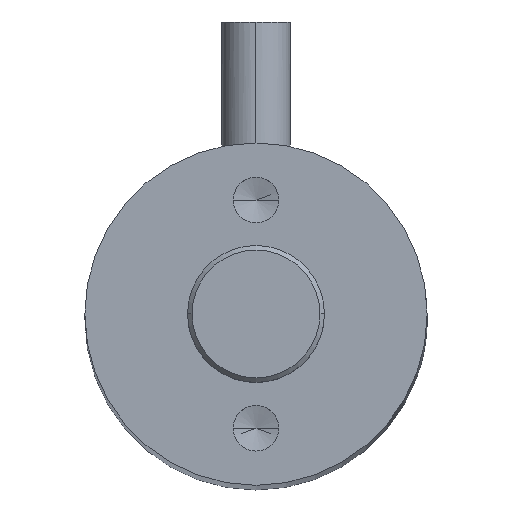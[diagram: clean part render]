
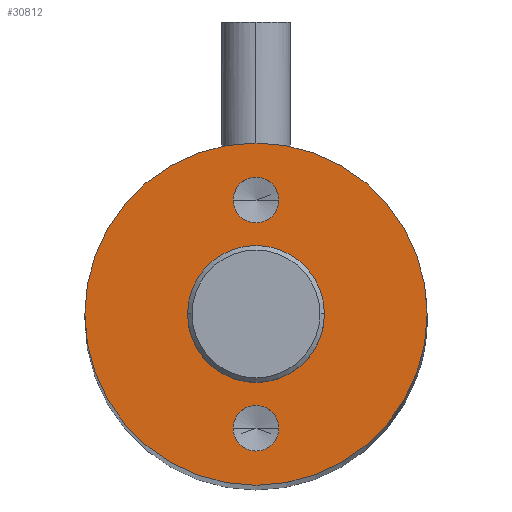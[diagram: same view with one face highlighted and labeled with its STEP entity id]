
A CAD part, top view. The second image highlights one B-rep face of the part: STEP entity #30812.
In plain terms, the highlighted planar face has unit normal (0, 0, 1).
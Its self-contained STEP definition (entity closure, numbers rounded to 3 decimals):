
#53 = FACE_BOUND ( 'NONE', #38670, .T. ) ;
#170 = EDGE_CURVE ( 'NONE', #35026, #16088, #1766, .T. ) ;
#465 = EDGE_CURVE ( 'NONE', #12319, #28837, #17009, .T. ) ;
#469 = ORIENTED_EDGE ( 'NONE', *, *, #14877, .F. ) ;
#974 = AXIS2_PLACEMENT_3D ( 'NONE', #29492, #14544, #26144 ) ;
#1462 = CARTESIAN_POINT ( 'NONE',  ( 1., -5., 118.6 ) ) ;
#1564 = CARTESIAN_POINT ( 'NONE',  ( 0., 0., 118.6 ) ) ;
#1766 = CIRCLE ( 'NONE', #22416, 3. ) ;
#2855 = CIRCLE ( 'NONE', #28760, 1. ) ;
#3066 = VERTEX_POINT ( 'NONE', #1462 ) ;
#4237 = DIRECTION ( 'NONE',  ( 0., 0., 1. ) ) ;
#4378 = CARTESIAN_POINT ( 'NONE',  ( 0., -5., 118.6 ) ) ;
#4608 = ORIENTED_EDGE ( 'NONE', *, *, #170, .F. ) ;
#5483 = DIRECTION ( 'NONE',  ( 1., 0., 0. ) ) ;
#6191 = ORIENTED_EDGE ( 'NONE', *, *, #38033, .F. ) ;
#6584 = ORIENTED_EDGE ( 'NONE', *, *, #11230, .F. ) ;
#7338 = CARTESIAN_POINT ( 'NONE',  ( -7.5, 0., 118.6 ) ) ;
#9251 = AXIS2_PLACEMENT_3D ( 'NONE', #1564, #32249, #16734 ) ;
#9336 = DIRECTION ( 'NONE',  ( 1., 0., 0. ) ) ;
#9353 = DIRECTION ( 'NONE',  ( 1., 0., 0. ) ) ;
#10800 = DIRECTION ( 'NONE',  ( 0., 0., 1. ) ) ;
#11020 = VERTEX_POINT ( 'NONE', #33335 ) ;
#11230 = EDGE_CURVE ( 'NONE', #21494, #3066, #16394, .T. ) ;
#11379 = AXIS2_PLACEMENT_3D ( 'NONE', #31058, #19164, #25015 ) ;
#11482 = CARTESIAN_POINT ( 'NONE',  ( -1., -5., 118.6 ) ) ;
#12244 = CARTESIAN_POINT ( 'NONE',  ( 0., -5., 118.6 ) ) ;
#12319 = VERTEX_POINT ( 'NONE', #22493 ) ;
#13239 = EDGE_CURVE ( 'NONE', #20420, #11020, #23550, .T. ) ;
#13582 = CARTESIAN_POINT ( 'NONE',  ( 0., 0., 118.6 ) ) ;
#14544 = DIRECTION ( 'NONE',  ( 0., 0., 1. ) ) ;
#14877 = EDGE_CURVE ( 'NONE', #3066, #21494, #35516, .T. ) ;
#15064 = DIRECTION ( 'NONE',  ( 0., 0., 1. ) ) ;
#15562 = PLANE ( 'NONE',  #11379 ) ;
#15909 = CIRCLE ( 'NONE', #24467, 3. ) ;
#16088 = VERTEX_POINT ( 'NONE', #39288 ) ;
#16394 = CIRCLE ( 'NONE', #24934, 1. ) ;
#16426 = CARTESIAN_POINT ( 'NONE',  ( -1., 5., 118.6 ) ) ;
#16474 = DIRECTION ( 'NONE',  ( 1., 0., 0. ) ) ;
#16616 = EDGE_CURVE ( 'NONE', #16088, #35026, #15909, .T. ) ;
#16640 = DIRECTION ( 'NONE',  ( 1., 0., 0. ) ) ;
#16734 = DIRECTION ( 'NONE',  ( 1., 0., 0. ) ) ;
#17009 = CIRCLE ( 'NONE', #26495, 1. ) ;
#18694 = ORIENTED_EDGE ( 'NONE', *, *, #16616, .F. ) ;
#19164 = DIRECTION ( 'NONE',  ( 0., 0., 1. ) ) ;
#20099 = FACE_OUTER_BOUND ( 'NONE', #26546, .T. ) ;
#20420 = VERTEX_POINT ( 'NONE', #7338 ) ;
#21205 = CARTESIAN_POINT ( 'NONE',  ( 0., 0., 118.6 ) ) ;
#21494 = VERTEX_POINT ( 'NONE', #11482 ) ;
#22416 = AXIS2_PLACEMENT_3D ( 'NONE', #13582, #10800, #16640 ) ;
#22493 = CARTESIAN_POINT ( 'NONE',  ( 1., 5., 118.6 ) ) ;
#23008 = CIRCLE ( 'NONE', #9251, 7.5 ) ;
#23177 = EDGE_LOOP ( 'NONE', ( #31982, #6191 ) ) ;
#23202 = AXIS2_PLACEMENT_3D ( 'NONE', #12244, #33614, #9336 ) ;
#23550 = CIRCLE ( 'NONE', #974, 7.5 ) ;
#23696 = CARTESIAN_POINT ( 'NONE',  ( 0., 5., 118.6 ) ) ;
#24467 = AXIS2_PLACEMENT_3D ( 'NONE', #21205, #15064, #9353 ) ;
#24934 = AXIS2_PLACEMENT_3D ( 'NONE', #4378, #4237, #16474 ) ;
#25015 = DIRECTION ( 'NONE',  ( 1., 0., 0. ) ) ;
#25623 = CARTESIAN_POINT ( 'NONE',  ( 0., 5., 118.6 ) ) ;
#25822 = FACE_BOUND ( 'NONE', #29516, .T. ) ;
#26144 = DIRECTION ( 'NONE',  ( 1., 0., 0. ) ) ;
#26495 = AXIS2_PLACEMENT_3D ( 'NONE', #23696, #33320, #5483 ) ;
#26546 = EDGE_LOOP ( 'NONE', ( #34454, #32731 ) ) ;
#28185 = FACE_BOUND ( 'NONE', #23177, .T. ) ;
#28654 = EDGE_CURVE ( 'NONE', #11020, #20420, #23008, .T. ) ;
#28691 = DIRECTION ( 'NONE',  ( 1., 0., 0. ) ) ;
#28760 = AXIS2_PLACEMENT_3D ( 'NONE', #25623, #38324, #28691 ) ;
#28837 = VERTEX_POINT ( 'NONE', #16426 ) ;
#29492 = CARTESIAN_POINT ( 'NONE',  ( 0., 0., 118.6 ) ) ;
#29516 = EDGE_LOOP ( 'NONE', ( #469, #6584 ) ) ;
#30812 = ADVANCED_FACE ( 'NONE', ( #25822, #28185, #53, #20099 ), #15562, .T. ) ;
#31058 = CARTESIAN_POINT ( 'NONE',  ( 0., 0., 118.6 ) ) ;
#31982 = ORIENTED_EDGE ( 'NONE', *, *, #465, .F. ) ;
#32249 = DIRECTION ( 'NONE',  ( 0., 0., 1. ) ) ;
#32731 = ORIENTED_EDGE ( 'NONE', *, *, #28654, .T. ) ;
#32888 = CARTESIAN_POINT ( 'NONE',  ( -3., 0., 118.6 ) ) ;
#33320 = DIRECTION ( 'NONE',  ( 0., 0., 1. ) ) ;
#33335 = CARTESIAN_POINT ( 'NONE',  ( 7.5, 0., 118.6 ) ) ;
#33614 = DIRECTION ( 'NONE',  ( 0., 0., 1. ) ) ;
#34454 = ORIENTED_EDGE ( 'NONE', *, *, #13239, .T. ) ;
#35026 = VERTEX_POINT ( 'NONE', #32888 ) ;
#35516 = CIRCLE ( 'NONE', #23202, 1. ) ;
#38033 = EDGE_CURVE ( 'NONE', #28837, #12319, #2855, .T. ) ;
#38324 = DIRECTION ( 'NONE',  ( 0., 0., 1. ) ) ;
#38670 = EDGE_LOOP ( 'NONE', ( #4608, #18694 ) ) ;
#39288 = CARTESIAN_POINT ( 'NONE',  ( 3., 0., 118.6 ) ) ;
